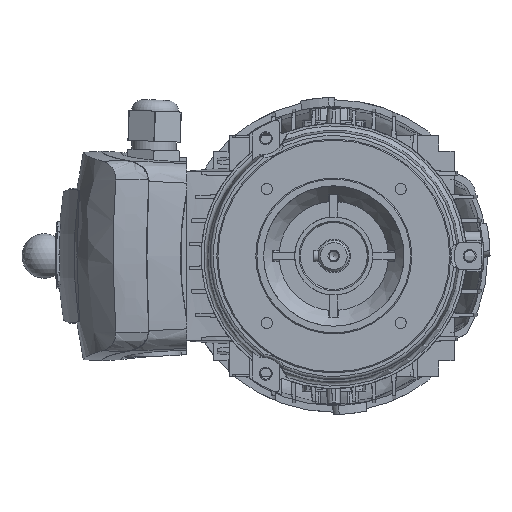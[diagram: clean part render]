
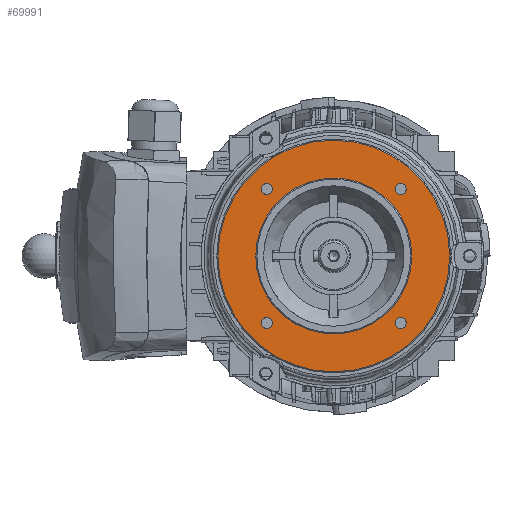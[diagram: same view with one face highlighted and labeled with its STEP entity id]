
A CAD part, left-side view. The second image highlights one B-rep face of the part: STEP entity #69991.
In plain terms, the highlighted planar face has unit normal (-1, 0, 0).
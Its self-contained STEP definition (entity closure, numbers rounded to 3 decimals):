
#63387=CARTESIAN_POINT('',(-33.5,0.0,-52.));
#63388=VERTEX_POINT('',#63387);
#63389=CARTESIAN_POINT('',(-33.5,0.0,0.0));
#63390=DIRECTION('',(-1.0,0.0,0.0));
#63391=DIRECTION('',(0.0,0.0,-1.0));
#63392=AXIS2_PLACEMENT_3D('',#63389,#63390,#63391);
#63393=CIRCLE('',#63392,52.);
#63394=EDGE_CURVE('',#63388,#63388,#63393,.T.);
#63848=CARTESIAN_POINT('',(-33.5,30.052,-32.552));
#63849=VERTEX_POINT('',#63848);
#63850=CARTESIAN_POINT('',(-33.5,30.052,-30.052));
#63851=DIRECTION('',(1.0,0.0,0.0));
#63852=DIRECTION('',(0.0,0.0,-1.0));
#63853=AXIS2_PLACEMENT_3D('',#63850,#63851,#63852);
#63854=CIRCLE('',#63853,2.5);
#63855=EDGE_CURVE('',#63849,#63849,#63854,.T.);
#63876=CARTESIAN_POINT('',(-33.5,30.052,27.552));
#63877=VERTEX_POINT('',#63876);
#63878=CARTESIAN_POINT('',(-33.5,30.052,30.052));
#63879=DIRECTION('',(1.0,0.0,0.0));
#63880=DIRECTION('',(0.0,0.0,-1.0));
#63881=AXIS2_PLACEMENT_3D('',#63878,#63879,#63880);
#63882=CIRCLE('',#63881,2.5);
#63883=EDGE_CURVE('',#63877,#63877,#63882,.T.);
#63904=CARTESIAN_POINT('',(-33.5,-30.052,27.552));
#63905=VERTEX_POINT('',#63904);
#63906=CARTESIAN_POINT('',(-33.5,-30.052,30.052));
#63907=DIRECTION('',(1.0,0.0,0.0));
#63908=DIRECTION('',(0.0,0.0,-1.0));
#63909=AXIS2_PLACEMENT_3D('',#63906,#63907,#63908);
#63910=CIRCLE('',#63909,2.5);
#63911=EDGE_CURVE('',#63905,#63905,#63910,.T.);
#63932=CARTESIAN_POINT('',(-33.5,-30.052,-32.552));
#63933=VERTEX_POINT('',#63932);
#63934=CARTESIAN_POINT('',(-33.5,-30.052,-30.052));
#63935=DIRECTION('',(1.0,0.0,0.0));
#63936=DIRECTION('',(0.0,0.0,-1.0));
#63937=AXIS2_PLACEMENT_3D('',#63934,#63935,#63936);
#63938=CIRCLE('',#63937,2.5);
#63939=EDGE_CURVE('',#63933,#63933,#63938,.T.);
#66098=CARTESIAN_POINT('',(-33.5,0.0,-35.));
#66099=VERTEX_POINT('',#66098);
#66100=CARTESIAN_POINT('',(-33.5,0.0,0.0));
#66101=DIRECTION('',(1.0,0.0,0.0));
#66102=DIRECTION('',(0.0,0.0,-1.0));
#66103=AXIS2_PLACEMENT_3D('',#66100,#66101,#66102);
#66104=CIRCLE('',#66103,35.);
#66105=EDGE_CURVE('',#66099,#66099,#66104,.T.);
#69968=CARTESIAN_POINT('',(-33.5,35.,0.0));
#69969=DIRECTION('',(1.0,0.0,0.0));
#69970=DIRECTION('',(0.0,0.0,-1.0));
#69971=AXIS2_PLACEMENT_3D('',#69968,#69969,#69970);
#69972=PLANE('',#69971);
#69973=ORIENTED_EDGE('',*,*,#63394,.T.);
#69974=EDGE_LOOP('',(#69973));
#69975=FACE_OUTER_BOUND('',#69974,.T.);
#69976=ORIENTED_EDGE('',*,*,#63855,.T.);
#69977=EDGE_LOOP('',(#69976));
#69978=FACE_BOUND('',#69977,.T.);
#69979=ORIENTED_EDGE('',*,*,#63883,.T.);
#69980=EDGE_LOOP('',(#69979));
#69981=FACE_BOUND('',#69980,.T.);
#69982=ORIENTED_EDGE('',*,*,#63911,.T.);
#69983=EDGE_LOOP('',(#69982));
#69984=FACE_BOUND('',#69983,.T.);
#69985=ORIENTED_EDGE('',*,*,#63939,.T.);
#69986=EDGE_LOOP('',(#69985));
#69987=FACE_BOUND('',#69986,.T.);
#69988=ORIENTED_EDGE('',*,*,#66105,.T.);
#69989=EDGE_LOOP('',(#69988));
#69990=FACE_BOUND('',#69989,.T.);
#69991=ADVANCED_FACE('',(#69975,#69978,#69981,#69984,#69987,#69990),#69972,.F.);
